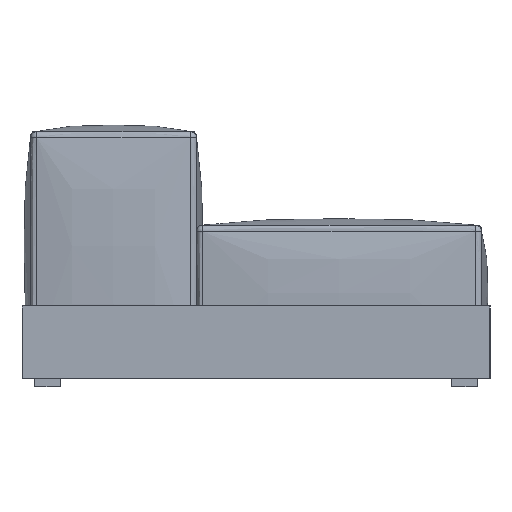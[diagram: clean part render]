
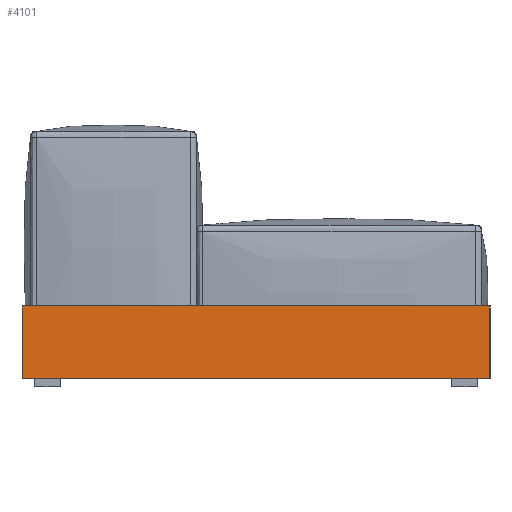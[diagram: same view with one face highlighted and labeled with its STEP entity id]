
A CAD part, left-side view. The second image highlights one B-rep face of the part: STEP entity #4101.
In plain terms, the highlighted planar face has unit normal (-1, 0, 0).
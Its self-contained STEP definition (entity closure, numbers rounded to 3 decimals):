
#145=PLANE('',#4621);
#297=LINE('',#17889,#533);
#298=LINE('',#17891,#534);
#299=LINE('',#17893,#535);
#300=LINE('',#17894,#536);
#533=VECTOR('',#5429,10.);
#534=VECTOR('',#5430,10.);
#535=VECTOR('',#5431,10.);
#536=VECTOR('',#5432,10.);
#1189=FACE_OUTER_BOUND('',#1493,.T.);
#1493=EDGE_LOOP('',(#3481,#3482,#3483,#3484));
#1977=VERTEX_POINT('',#17887);
#1978=VERTEX_POINT('',#17888);
#1979=VERTEX_POINT('',#17890);
#1980=VERTEX_POINT('',#17892);
#2497=EDGE_CURVE('',#1977,#1978,#297,.T.);
#2498=EDGE_CURVE('',#1977,#1979,#298,.T.);
#2499=EDGE_CURVE('',#1980,#1979,#299,.T.);
#2500=EDGE_CURVE('',#1978,#1980,#300,.T.);
#3481=ORIENTED_EDGE('',*,*,#2497,.F.);
#3482=ORIENTED_EDGE('',*,*,#2498,.T.);
#3483=ORIENTED_EDGE('',*,*,#2499,.F.);
#3484=ORIENTED_EDGE('',*,*,#2500,.F.);
#4101=ADVANCED_FACE('',(#1189),#145,.T.);
#4621=AXIS2_PLACEMENT_3D('',#17886,#5427,#5428);
#5427=DIRECTION('center_axis',(-1.,0.,0.));
#5428=DIRECTION('ref_axis',(0.,-1.,0.));
#5429=DIRECTION('',(0.,1.,0.));
#5430=DIRECTION('',(0.,0.,1.));
#5431=DIRECTION('',(0.,-1.,0.));
#5432=DIRECTION('',(0.,0.,1.));
#17886=CARTESIAN_POINT('Origin',(-1300.,550.,0.));
#17887=CARTESIAN_POINT('',(-1300.,-550.,0.));
#17888=CARTESIAN_POINT('',(-1300.,550.,0.));
#17889=CARTESIAN_POINT('',(-1300.,-550.,0.));
#17890=CARTESIAN_POINT('',(-1300.,-550.,170.));
#17891=CARTESIAN_POINT('',(-1300.,-550.,0.));
#17892=CARTESIAN_POINT('',(-1300.,550.,170.));
#17893=CARTESIAN_POINT('',(-1300.,-550.,170.));
#17894=CARTESIAN_POINT('',(-1300.,550.,0.));
